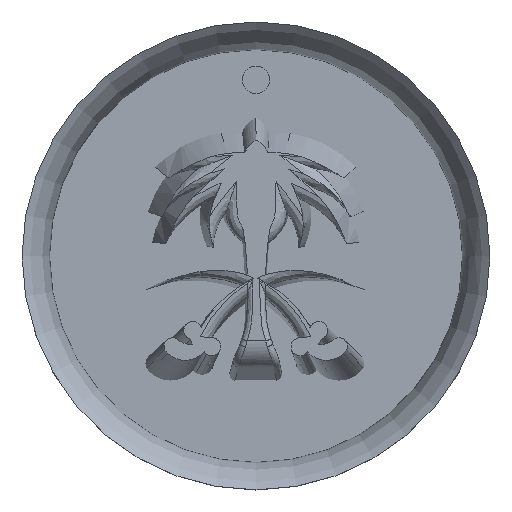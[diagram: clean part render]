
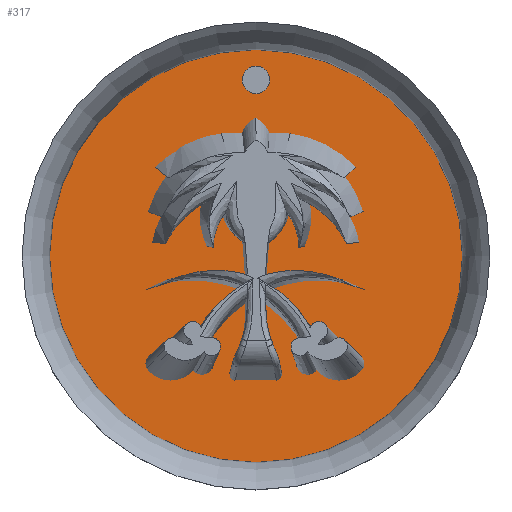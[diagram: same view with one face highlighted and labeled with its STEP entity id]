
A CAD part, top view. The second image highlights one B-rep face of the part: STEP entity #317.
In plain terms, the highlighted planar face has unit normal (0, 0, 1).
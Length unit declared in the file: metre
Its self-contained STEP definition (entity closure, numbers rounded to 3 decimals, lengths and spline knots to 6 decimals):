
#317 = ADVANCED_FACE( '', ( #648, #649 ), #650, .T. );
#648 = FACE_BOUND( '', #5833, .T. );
#649 = FACE_OUTER_BOUND( '', #5834, .T. );
#650 = PLANE( '', #5835 );
#5833 = EDGE_LOOP( '', ( #7594 ) );
#5834 = EDGE_LOOP( '', ( #7595 ) );
#5835 = AXIS2_PLACEMENT_3D( '', #7596, #7597, #7598 );
#7594 = ORIENTED_EDGE( '', *, *, #7923, .F. );
#7595 = ORIENTED_EDGE( '', *, *, #7997, .F. );
#7596 = CARTESIAN_POINT( '', ( 0., 0., 0.003 ) );
#7597 = DIRECTION( '', ( 0., 0., 1. ) );
#7598 = DIRECTION( '', ( 1., 0., 0. ) );
#7923 = EDGE_CURVE( '', #8478, #8478, #8479, .T. );
#7997 = EDGE_CURVE( '', #8607, #8607, #8608, .F. );
#8478 = VERTEX_POINT( '', #10728 );
#8479 = CIRCLE( '', #10729, 0.0025 );
#8607 = VERTEX_POINT( '', #11320 );
#8608 = CIRCLE( '', #11321, 0.0375 );
#10728 = CARTESIAN_POINT( '', ( 0.0025, 0.032, 0.003 ) );
#10729 = AXIS2_PLACEMENT_3D( '', #13705, #13706, #13707 );
#11320 = CARTESIAN_POINT( '', ( 0.0375, 0., 0.003 ) );
#11321 = AXIS2_PLACEMENT_3D( '', #13715, #13716, #13717 );
#13705 = CARTESIAN_POINT( '', ( 0., 0.032, 0.003 ) );
#13706 = DIRECTION( '', ( 0., 0., 1. ) );
#13707 = DIRECTION( '', ( 1., 0., 0. ) );
#13715 = CARTESIAN_POINT( '', ( 0., 0., 0.003 ) );
#13716 = DIRECTION( '', ( 0., 0., 1. ) );
#13717 = DIRECTION( '', ( 1., 0., 0. ) );
